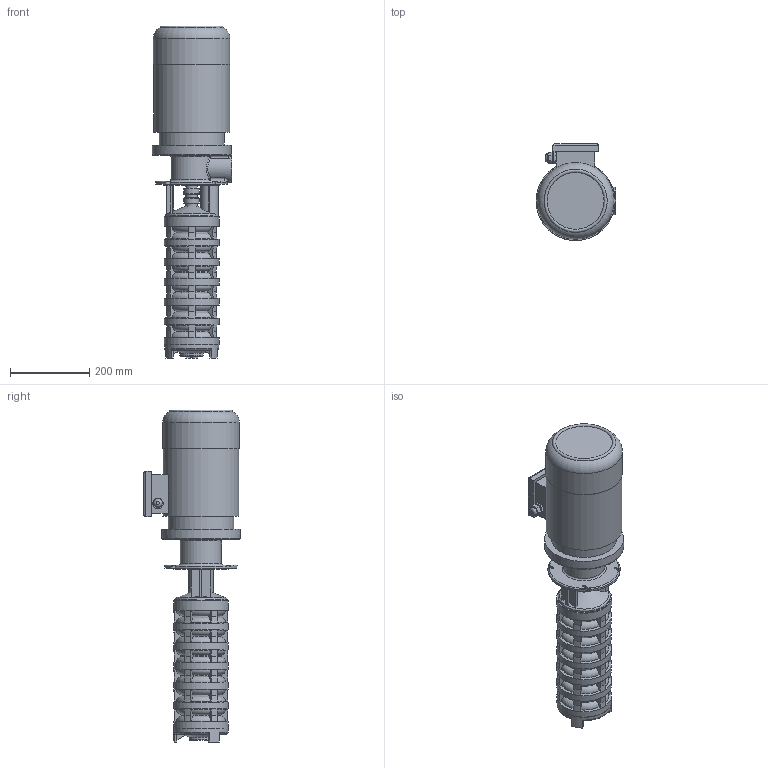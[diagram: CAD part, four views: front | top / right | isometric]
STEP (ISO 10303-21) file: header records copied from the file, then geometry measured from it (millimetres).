
FILE_DESCRIPTION(/* description */ ('Unknown'),/* implementation_level */ '2;1');
FILE_NAME(/* name */ 'gp7-440',/* time_stamp */ '2025-06-17T14:04:23+03:00',/* author */ ('Unknown'),/* organization */ ('Unknown'),/* preprocessor_version */ 'ST-DEVELOPER v16.7',/* originating_system */ 'DEX',/* authorisation */ $);
FILE_SCHEMA (('TECHNICAL_DATA_PACKAGING','AUTOMOTIVE_DESIGN {1 0 10303 214 3 1 1}'));
Length unit declared in the file: millimetre
Products named in the file (1): gp7-440
Bounding box: 202 x 245.5 x 840.5 mm (x, y, z)
Volume: 15734059.6 mm3; surface area: 637360.4 mm2
Topology: 1 solids, 1 shells, 564 faces, 1528 edges, 997 vertices
Faces by surface type: plane 182, cylinder 108, cone 101, torus 88, bspline 85
Full cylindrical faces by diameter (mm): 17 x1, 21.5 x1, 29 x3, 33 x2, 35 x2, 39 x2, 40.5 x2, 45 x1, 47 x1, 60 x1, 137 x1, 139 x7, 140 x1, 165 x1, 192.353 x1, 194 x1, 200 x1
Entity records: 20428 total; most frequent: CARTESIAN_POINT 6714, ORIENTED_EDGE 2886, DIRECTION 2783, EDGE_CURVE 1443, AXIS2_PLACEMENT_3D 1067, VERTEX_POINT 975, EDGE_LOOP 662, FACE_BOUND 662
